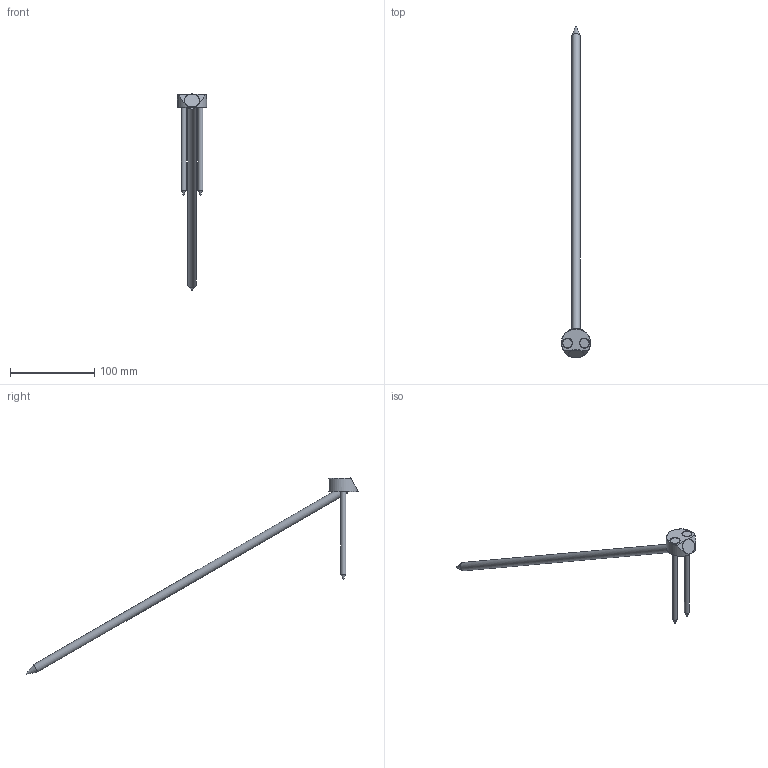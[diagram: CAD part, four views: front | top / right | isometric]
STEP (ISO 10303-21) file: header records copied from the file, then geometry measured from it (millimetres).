
FILE_DESCRIPTION(/* description */ ('Unknown'),/* implementation_level */ '2;1');
FILE_NAME(/* name */ 'T-Joint_D35_W30_2xSK6x120_1xSK10x450',/* time_stamp */ '2020-07-13T10:11:18+02:00',/* author */ ('Unknown'),/* organization */ ('Unknown'),/* preprocessor_version */ 'ST-DEVELOPER v16.7',/* originating_system */ 'DEX',/* authorisation */ $);
FILE_SCHEMA (('AUTOMOTIVE_DESIGN {1 0 10303 214 3 1 1}'));
Length unit declared in the file: millimetre
Products named in the file (4): T-Joint_D35_W30_2xSK6x120_1xSK10x450; T-Joint_D35_W30; SK Schraube 6x120_ohne_Gewinde; SK Schraube 10x450_ohne_Gewinde_22042020
Assembly tree (4 placements, depth 2):
  T-Joint_D35_W30_2xSK6x120_1xSK10x450
    T-Joint_D35_W30
    SK Schraube 6x120_ohne_Gewinde  x2
    SK Schraube 10x450_ohne_Gewinde_22042020
Bounding box: 34.79 x 394.48 x 233.2 mm (x, y, z)
Volume: 52410.4 mm3; surface area: 23317.2 mm2
Topology: 4 solids, 4 shells, 35 faces, 67 edges, 41 vertices
Faces by surface type: cylinder 12, plane 11, cone 9, torus 3
Full cylindrical faces by diameter (mm): 6 x2, 6.2 x2, 6.3 x1, 10 x2, 11 x2, 12.5 x1, 18 x1, 34.8 x1
Entity records: 738 total; most frequent: DIRECTION 128, CARTESIAN_POINT 111, ORIENTED_EDGE 68, AXIS2_PLACEMENT_3D 63, EDGE_LOOP 55, FACE_BOUND 55, EDGE_CURVE 34, VERTEX_POINT 31
